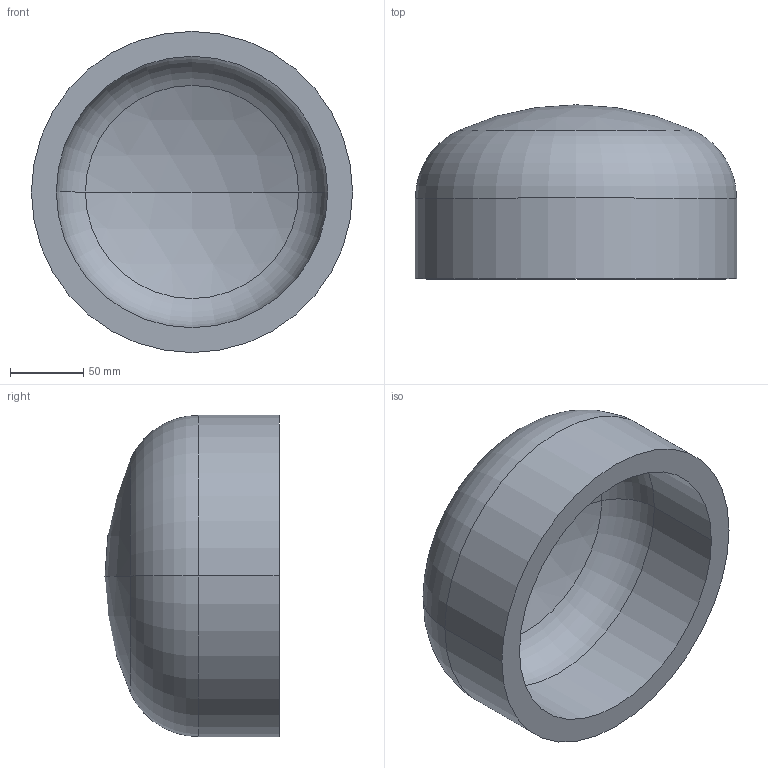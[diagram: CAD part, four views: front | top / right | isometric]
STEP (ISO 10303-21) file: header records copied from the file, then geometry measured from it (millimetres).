
FILE_DESCRIPTION (( 'STEP AP203' ), '1' );
FILE_NAME ('DIN 28013 Korbbogenform_-_Boden DIN 28013 - 219,1 x 55 - I - s=17.step', '2016-07-01T07:42:37', ( '' ), ( '' ), 'SwSTEP 2.0', 'SolidWorks 2013', '' );
FILE_SCHEMA (( 'CONFIG_CONTROL_DESIGN' ));
Length unit declared in the file: millimetre
Products named in the file (1): DIN 28013 Korbbogenform_-_Boden DIN 28013 - 219,1 x 55 - I - s=17
Bounding box: 219.1 x 118.73 x 219.1 mm (x, y, z)
Volume: 1400172.3 mm3; surface area: 176125 mm2
Topology: 1 solids, 1 shells, 13 faces, 24 edges, 14 vertices
Faces by surface type: torus 4, cylinder 4, sphere 4, plane 1
Entity records: 407 total; most frequent: DIRECTION 72, CARTESIAN_POINT 52, ORIENTED_EDGE 48, AXIS2_PLACEMENT_3D 34, EDGE_CURVE 24, CIRCLE 20, VERTEX_POINT 14, EDGE_LOOP 14
